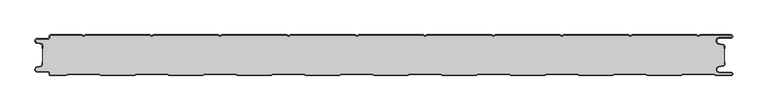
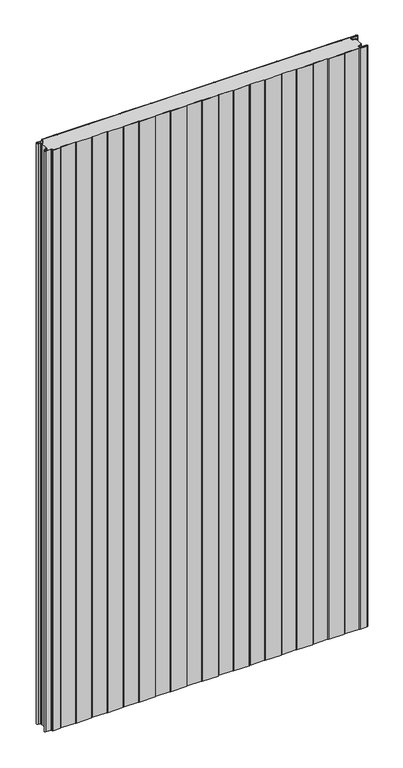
"""IFC4 building model written with IfcOpenShell, lengths in millimetres: plate geometry, PMH_Curtain-PaneL-Standard : ACH_PMH_Stone-wool-Panel_60M."""

from ifc_helpers import new_model, si_unit, point, frame_2d, origin, origin_with_axes, place, context, project, spatial, polyline, circle_curve, trimmed, segment, composite_curve, outline, extrude, source, transform, mapped, element, save


def plate_73a2f7ae(model_context):
    return source(origin(), model_context, "Body", "SweptSolid", [
        extrude(outline(composite_curve([segment(trimmed(circle_curve(frame_2d((-502.0, -15.878557)), 2.0), [point((-500.0, -15.878557))], [point((-501.5500978, -13.9298169))], True, "CARTESIAN"), True, "CONTINUOUS"), segment(polyline([(-501.5500978, -13.9298169), (-507.7098239, -12.507732)]), True, "CONTINUOUS"), segment(trimmed(circle_curve(frame_2d((-506.9, -9.0)), 3.6), [point((-507.7098239, -12.507732))], [point((-506.9, -5.4))], False, "CARTESIAN"), True, "CONTINUOUS"), segment(polyline([(-506.9, -5.4), (-491.4, -5.4)]), True, "CONTINUOUS"), segment(trimmed(circle_curve(frame_2d((-491.4, -3.4)), 2.0), [point((-491.4, -5.4))], [point((-489.4, -3.4))], True, "CARTESIAN"), True, "CONTINUOUS"), segment(polyline([(-489.4, -3.4), (-489.4, -2.0)]), True, "CONTINUOUS"), segment(trimmed(circle_curve(frame_2d((-487.4, -2.0)), 2.0), [point((-489.4, -2.0))], [point((-487.4, 0.0))], False, "CARTESIAN"), True, "CONTINUOUS"), segment(polyline([(-487.4, 0.0), (-442.0999995, 0.0), (-439.4, -1.5588455), (-436.7000005, 0.0), (-342.0999995, 0.0), (-339.4, -1.5588455), (-336.7000005, 0.0), (-242.0999995, 0.0), (-239.4, -1.5588455), (-236.7000005, 0.0), (-142.0999995, 0.0), (-139.4, -1.5588455), (-136.7000005, 0.0), (-42.0999995, 0.0), (-39.4, -1.5588455), (-36.7000005, 0.0), (57.9000005, 0.0), (60.6, -1.5588455), (63.2999995, 0.0), (157.9000005, 0.0), (160.6, -1.5588455), (163.2999995, 0.0), (257.9000005, 0.0), (260.6, -1.5588455), (263.2999995, 0.0), (357.9000005, 0.0), (360.6, -1.5588455), (363.2999995, 0.0), (457.9000005, 0.0), (460.6, -1.5588455), (463.2999995, 0.0), (508.1, 0.0)]), True, "CONTINUOUS"), segment(trimmed(circle_curve(frame_2d((508.1, -2.5)), 2.5), [point((508.1, 0.0))], [point((508.1, -5.0))], False, "CARTESIAN"), True, "CONTINUOUS"), segment(polyline([(508.1, -5.0), (491.1, -5.0)]), True, "CONTINUOUS"), segment(trimmed(circle_curve(frame_2d((491.1, -9.0)), 4.0), [point((491.1, -5.0))], [point((490.405407, -12.939231))], True, "CARTESIAN"), True, "CONTINUOUS"), segment(polyline([(490.405407, -12.939231), (496.8514855, -14.0758491)]), True, "CONTINUOUS"), segment(trimmed(circle_curve(frame_2d((496.4, -16.6363492)), 2.6), [point((496.8514855, -14.0758491))], [point((499.0, -16.6363492))], False, "CARTESIAN"), True, "CONTINUOUS"), segment(polyline([(499.0, -16.6363492), (499.0, -20.0), (498.2, -20.0), (498.2, -16.6363492)]), True, "CONTINUOUS"), segment(trimmed(circle_curve(frame_2d((496.4, -16.6363492)), 1.8), [point((498.2, -16.6363492))], [point((496.7125669, -14.8636953))], True, "CARTESIAN"), True, "CONTINUOUS"), segment(polyline([(496.7125669, -14.8636953), (490.2664884, -13.7270772)]), True, "CONTINUOUS"), segment(trimmed(circle_curve(frame_2d((491.1, -9.0)), 4.8), [point((490.2664884, -13.7270772))], [point((491.1, -4.2))], False, "CARTESIAN"), True, "CONTINUOUS"), segment(polyline([(491.1, -4.2), (508.1, -4.2)]), True, "CONTINUOUS"), segment(trimmed(circle_curve(frame_2d((508.1, -2.5)), 1.7), [point((508.1, -4.2))], [point((508.1, -0.8))], True, "CARTESIAN"), True, "CONTINUOUS"), segment(polyline([(508.1, -0.8), (463.5143588, -0.8), (460.6, -2.482606), (457.6856412, -0.8), (363.5143588, -0.8), (360.6, -2.482606), (357.6856412, -0.8), (263.5143588, -0.8), (260.6, -2.482606), (257.6856412, -0.8), (163.5143588, -0.8), (160.6, -2.482606), (157.6856412, -0.8), (63.5143588, -0.8), (60.6, -2.482606), (57.6856412, -0.8), (-36.4856412, -0.8), (-39.4, -2.482606), (-42.3143588, -0.8), (-136.4856412, -0.8), (-139.4, -2.482606), (-142.3143588, -0.8), (-236.4856412, -0.8), (-239.4, -2.482606), (-242.3143588, -0.8), (-336.4856412, -0.8), (-339.4, -2.482606), (-342.3143588, -0.8), (-436.4856412, -0.8), (-439.4, -2.482606), (-442.3143588, -0.8), (-487.4, -0.8)]), True, "CONTINUOUS"), segment(trimmed(circle_curve(frame_2d((-487.4, -2.0)), 1.2), [point((-487.4, -0.8))], [point((-488.6, -2.0))], True, "CARTESIAN"), True, "CONTINUOUS"), segment(polyline([(-488.6, -2.0), (-488.6, -3.4)]), True, "CONTINUOUS"), segment(trimmed(circle_curve(frame_2d((-491.4, -3.4)), 2.8), [point((-488.6, -3.4))], [point((-491.4, -6.2))], False, "CARTESIAN"), True, "CONTINUOUS"), segment(polyline([(-491.4, -6.2), (-506.9, -6.2)]), True, "CONTINUOUS"), segment(trimmed(circle_curve(frame_2d((-506.9, -9.0)), 2.8), [point((-506.9, -6.2))], [point((-507.529863, -11.7282362))], True, "CARTESIAN"), True, "CONTINUOUS"), segment(polyline([(-507.529863, -11.7282362), (-501.370137, -13.150321)]), True, "CONTINUOUS"), segment(trimmed(circle_curve(frame_2d((-502.0, -15.878557)), 2.8), [point((-501.370137, -13.150321))], [point((-499.2, -15.878557))], False, "CARTESIAN"), True, "CONTINUOUS"), segment(polyline([(-499.2, -15.878557), (-499.2, -20.0), (-500.0, -20.0), (-500.0, -15.878557)]), True, "CONTINUOUS")], self_intersect=False)), origin_with_axes(), (0.0, 0.0, 1.0), 1945.7507136),
        extrude(outline(composite_curve([segment(polyline([(-499.2, -44.121443), (-499.2, -15.8785573)]), True, "CONTINUOUS"), segment(trimmed(circle_curve(frame_2d((-502.0, -15.8785573)), 2.8), [point((-499.2, -15.8785573))], [point((-501.370137, -13.1503212))], True, "CARTESIAN"), True, "CONTINUOUS"), segment(polyline([(-501.370137, -13.1503212), (-507.5298631, -11.7282362)]), True, "CONTINUOUS"), segment(trimmed(circle_curve(frame_2d((-506.9, -9.0)), 2.8), [point((-507.5298631, -11.7282362))], [point((-506.9, -6.2))], False, "CARTESIAN"), True, "CONTINUOUS"), segment(polyline([(-506.9, -6.2), (-491.4000001, -6.2)]), True, "CONTINUOUS"), segment(trimmed(circle_curve(frame_2d((-491.4000001, -3.4)), 2.8), [point((-491.4000001, -6.2))], [point((-488.6000001, -3.4))], True, "CARTESIAN"), True, "CONTINUOUS"), segment(polyline([(-488.6000001, -3.4), (-488.6000001, -2.0)]), True, "CONTINUOUS"), segment(trimmed(circle_curve(frame_2d((-487.4000001, -2.0)), 1.2), [point((-488.6000001, -2.0))], [point((-487.4000001, -0.8))], False, "CARTESIAN"), True, "CONTINUOUS"), segment(polyline([(-487.4000001, -0.8), (-442.3143589, -0.8), (-439.4000001, -2.482606), (-436.4856412, -0.8), (-342.3143589, -0.8), (-339.4000001, -2.482606), (-336.4856412, -0.8), (-242.3143589, -0.8), (-239.4000001, -2.482606), (-236.4856412, -0.8), (-142.3143589, -0.8), (-139.4000001, -2.482606), (-136.4856412, -0.8), (-42.3143589, -0.8), (-39.4000001, -2.482606), (-36.4856412, -0.8), (57.6856411, -0.8), (60.5999999, -2.482606), (63.5143588, -0.8), (157.6856411, -0.8), (160.5999999, -2.482606), (163.5143588, -0.8), (257.6856411, -0.8), (260.5999999, -2.482606), (263.5143588, -0.8), (357.6856411, -0.8), (360.5999999, -2.482606), (363.5143588, -0.8), (457.6856411, -0.8), (460.5999999, -2.482606), (463.5143587, -0.8), (508.1, -0.8)]), True, "CONTINUOUS"), segment(trimmed(circle_curve(frame_2d((508.1, -2.5)), 1.7), [point((508.1, -0.8))], [point((508.1, -4.2))], False, "CARTESIAN"), True, "CONTINUOUS"), segment(polyline([(508.1, -4.2), (491.1, -4.2)]), True, "CONTINUOUS"), segment(trimmed(circle_curve(frame_2d((491.1, -9.0)), 4.8), [point((491.1, -4.2))], [point((490.2664883, -13.7270771))], True, "CARTESIAN"), True, "CONTINUOUS"), segment(polyline([(490.2664883, -13.7270771), (496.7125668, -14.8636953)]), True, "CONTINUOUS"), segment(trimmed(circle_curve(frame_2d((496.4, -16.6363492)), 1.8), [point((496.7125668, -14.8636953))], [point((498.2, -16.6363492))], False, "CARTESIAN"), True, "CONTINUOUS"), segment(polyline([(498.2, -16.6363492), (498.2, -43.363652)]), True, "CONTINUOUS"), segment(trimmed(circle_curve(frame_2d((496.4, -43.363652)), 1.8), [point((498.2, -43.363652))], [point((496.7125666, -45.1363059))], False, "CARTESIAN"), True, "CONTINUOUS"), segment(polyline([(496.7125666, -45.1363059), (490.266489, -46.272923)]), True, "CONTINUOUS"), segment(trimmed(circle_curve(frame_2d((491.1, -51.0000002)), 4.7999999), [point((490.266489, -46.272923))], [point((491.1, -55.8000001))], True, "CARTESIAN"), True, "CONTINUOUS"), segment(polyline([(491.1, -55.8000001), (508.1, -55.8000001)]), True, "CONTINUOUS"), segment(trimmed(circle_curve(frame_2d((508.1, -57.5)), 1.7), [point((508.1, -55.8000001))], [point((508.1, -59.2))], False, "CARTESIAN"), True, "CONTINUOUS"), segment(polyline([(508.1, -59.2), (485.8105122, -59.2), (483.2124346, -57.7), (437.9837184, -57.7), (435.3856408, -59.2), (385.8105122, -59.2), (383.2124346, -57.7), (337.9837184, -57.7), (335.3856408, -59.2), (285.8105122, -59.2), (283.2124346, -57.7), (237.9837184, -57.7), (235.3856408, -59.2), (185.8105122, -59.2), (183.2124346, -57.7), (137.9837184, -57.7), (135.3856408, -59.2), (85.8105122, -59.2), (83.2124346, -57.7), (37.9837184, -57.7), (35.3856408, -59.2), (-14.1894878, -59.2), (-16.7875654, -57.7), (-62.0162816, -57.7), (-64.6143592, -59.2), (-114.1894878, -59.2), (-116.7875654, -57.7), (-162.0162816, -57.7), (-164.6143592, -59.2), (-214.1894878, -59.2), (-216.7875654, -57.7), (-262.0162816, -57.7), (-264.6143592, -59.2), (-314.1894878, -59.2), (-316.7875654, -57.7), (-362.0162816, -57.7), (-364.6143592, -59.2), (-414.1894878, -59.2), (-416.7875654, -57.7), (-462.0162816, -57.7), (-464.6143592, -59.2), (-487.4, -59.2)]), True, "CONTINUOUS"), segment(trimmed(circle_curve(frame_2d((-487.4, -58.0)), 1.2), [point((-487.4, -59.2))], [point((-488.6, -58.0))], False, "CARTESIAN"), True, "CONTINUOUS"), segment(polyline([(-488.6, -58.0), (-488.6, -56.5999998)]), True, "CONTINUOUS"), segment(trimmed(circle_curve(frame_2d((-491.4, -56.5999998)), 2.8), [point((-488.6, -56.5999998))], [point((-491.4, -53.7999998))], True, "CARTESIAN"), True, "CONTINUOUS"), segment(polyline([(-491.4, -53.7999998), (-506.9, -53.7999998)]), True, "CONTINUOUS"), segment(trimmed(circle_curve(frame_2d((-506.9, -51.0)), 2.7999998), [point((-506.9, -53.7999998))], [point((-507.529863, -48.271764))], False, "CARTESIAN"), True, "CONTINUOUS"), segment(polyline([(-507.529863, -48.271764), (-501.370137, -46.8496792)]), True, "CONTINUOUS"), segment(trimmed(circle_curve(frame_2d((-502.0, -44.121443)), 2.8), [point((-501.370137, -46.8496792))], [point((-499.2, -44.121443))], True, "CARTESIAN"), True, "CONTINUOUS")], self_intersect=False)), origin_with_axes(), (0.0, 0.0, 1.0), 1945.7507136),
        extrude(outline(composite_curve([segment(trimmed(circle_curve(frame_2d((-487.4, -58.0)), 2.0), [point((-487.4, -60.0))], [point((-489.4, -58.0))], False, "CARTESIAN"), True, "CONTINUOUS"), segment(polyline([(-489.4, -58.0), (-489.4, -56.6)]), True, "CONTINUOUS"), segment(trimmed(circle_curve(frame_2d((-491.4, -56.6)), 2.0), [point((-489.4, -56.6))], [point((-491.4, -54.6))], True, "CARTESIAN"), True, "CONTINUOUS"), segment(polyline([(-491.4, -54.6), (-506.9, -54.6)]), True, "CONTINUOUS"), segment(trimmed(circle_curve(frame_2d((-506.9, -51.0)), 3.6), [point((-506.9, -54.6))], [point((-507.7098239, -47.4922678))], False, "CARTESIAN"), True, "CONTINUOUS"), segment(polyline([(-507.7098239, -47.4922678), (-501.5500979, -46.070183)]), True, "CONTINUOUS"), segment(trimmed(circle_curve(frame_2d((-502.0, -44.121443)), 2.0), [point((-501.5500979, -46.070183))], [point((-500.0, -44.121443))], True, "CARTESIAN"), True, "CONTINUOUS"), segment(polyline([(-500.0, -44.121443), (-500.0, -40.0), (-499.2, -40.0), (-499.2, -44.121443)]), True, "CONTINUOUS"), segment(trimmed(circle_curve(frame_2d((-502.0, -44.121443)), 2.8), [point((-499.2, -44.121443))], [point((-501.370137, -46.8496792))], False, "CARTESIAN"), True, "CONTINUOUS"), segment(polyline([(-501.370137, -46.8496792), (-507.529863, -48.271764)]), True, "CONTINUOUS"), segment(trimmed(circle_curve(frame_2d((-506.9, -51.0)), 2.8), [point((-507.529863, -48.271764))], [point((-506.9, -53.8))], True, "CARTESIAN"), True, "CONTINUOUS"), segment(polyline([(-506.9, -53.8), (-491.4, -53.8)]), True, "CONTINUOUS"), segment(trimmed(circle_curve(frame_2d((-491.4, -56.6)), 2.8), [point((-491.4, -53.8))], [point((-488.6, -56.6))], False, "CARTESIAN"), True, "CONTINUOUS"), segment(polyline([(-488.6, -56.6), (-488.6, -58.0)]), True, "CONTINUOUS"), segment(trimmed(circle_curve(frame_2d((-487.4, -58.0)), 1.2), [point((-488.6, -58.0))], [point((-487.4, -59.2))], True, "CARTESIAN"), True, "CONTINUOUS"), segment(polyline([(-487.4, -59.2), (-464.6143592, -59.2), (-462.0162816, -57.7), (-416.7875654, -57.7), (-414.1894878, -59.2), (-364.6143592, -59.2), (-362.0162816, -57.7), (-316.7875654, -57.7), (-314.1894878, -59.2), (-264.6143592, -59.2), (-262.0162816, -57.7), (-216.7875654, -57.7), (-214.1894878, -59.2), (-164.6143592, -59.2), (-162.0162816, -57.7), (-116.7875654, -57.7), (-114.1894878, -59.2), (-64.6143592, -59.2), (-62.0162816, -57.7), (-16.7875654, -57.7), (-14.1894878, -59.2), (35.3856408, -59.2), (37.9837184, -57.7), (83.2124346, -57.7), (85.8105122, -59.2), (135.3856408, -59.2), (137.9837184, -57.7), (183.2124346, -57.7), (185.8105122, -59.2), (235.3856408, -59.2), (237.9837184, -57.7), (283.2124346, -57.7), (285.8105122, -59.2), (335.3856408, -59.2), (337.9837184, -57.7), (383.2124346, -57.7), (385.8105122, -59.2), (435.3856408, -59.2), (437.9837184, -57.7), (483.2124346, -57.7), (485.8105122, -59.2), (508.1, -59.2)]), True, "CONTINUOUS"), segment(trimmed(circle_curve(frame_2d((508.1, -57.5)), 1.7), [point((508.1, -59.2))], [point((508.1, -55.8))], True, "CARTESIAN"), True, "CONTINUOUS"), segment(polyline([(508.1, -55.8), (491.1, -55.8)]), True, "CONTINUOUS"), segment(trimmed(circle_curve(frame_2d((491.1, -51.0)), 4.8), [point((491.1, -55.8))], [point((490.266489, -46.2729227))], False, "CARTESIAN"), True, "CONTINUOUS"), segment(polyline([(490.266489, -46.2729227), (496.7125666, -45.1363058)]), True, "CONTINUOUS"), segment(trimmed(circle_curve(frame_2d((496.4, -43.363652)), 1.8), [point((496.7125666, -45.1363058))], [point((498.2, -43.363652))], True, "CARTESIAN"), True, "CONTINUOUS"), segment(polyline([(498.2, -43.363652), (498.2, -40.0), (499.0, -40.0), (499.0, -43.363652)]), True, "CONTINUOUS"), segment(trimmed(circle_curve(frame_2d((496.4, -43.363652)), 2.6), [point((499.0, -43.363652))], [point((496.8514851, -45.9241522))], False, "CARTESIAN"), True, "CONTINUOUS"), segment(polyline([(496.8514851, -45.9241522), (490.4054075, -47.0607691)]), True, "CONTINUOUS"), segment(trimmed(circle_curve(frame_2d((491.1, -51.0)), 4.0), [point((490.4054075, -47.0607691))], [point((491.1, -55.0))], True, "CARTESIAN"), True, "CONTINUOUS"), segment(polyline([(491.1, -55.0), (508.1, -55.0)]), True, "CONTINUOUS"), segment(trimmed(circle_curve(frame_2d((508.1, -57.5)), 2.5), [point((508.1, -55.0))], [point((508.1, -60.0))], False, "CARTESIAN"), True, "CONTINUOUS"), segment(polyline([(508.1, -60.0), (485.5961529, -60.0), (482.9980753, -58.5), (438.1980777, -58.5), (435.6000001, -60.0), (385.5961529, -60.0), (382.9980753, -58.5), (338.1980777, -58.5), (335.6000001, -60.0), (285.5961529, -60.0), (282.9980753, -58.5), (238.1980777, -58.5), (235.6000001, -60.0), (185.5961529, -60.0), (182.9980753, -58.5), (138.1980777, -58.5), (135.6000001, -60.0), (85.5961529, -60.0), (82.9980753, -58.5), (38.1980777, -58.5), (35.6000001, -60.0), (-14.4038471, -60.0), (-17.0019247, -58.5), (-61.8019223, -58.5), (-64.3999999, -60.0), (-114.4038471, -60.0), (-117.0019247, -58.5), (-161.8019223, -58.5), (-164.3999999, -60.0), (-214.4038471, -60.0), (-217.0019247, -58.5), (-261.8019223, -58.5), (-264.3999999, -60.0), (-314.4038471, -60.0), (-317.0019247, -58.5), (-361.8019223, -58.5), (-364.3999999, -60.0), (-414.4038471, -60.0), (-417.0019247, -58.5), (-461.8019223, -58.5), (-464.3999999, -60.0), (-487.4, -60.0)]), True, "CONTINUOUS")], self_intersect=False)), origin_with_axes(), (0.0, 0.0, 1.0), 1945.7507136),
    ])


if __name__ == "__main__":
    model = new_model("IFC4")
    model_context = context("Model", 3, world=origin())
    ifc_project = project(units=[si_unit("LENGTHUNIT", "METRE", prefix="MILLI")], contexts=[model_context])
    site = spatial("IfcSite", under=ifc_project)
    building = spatial("IfcBuilding", under=site)
    placement = place(None, origin())
    plate_shape = plate_73a2f7ae(model_context)
    element("IfcPlate", 1, ObjectType="PMH_Curtain-PaneL-Standard : ACH_PMH_Stone-wool-Panel_60M", at=placement, inside=building, context=model_context, shape_type="MappedRepresentation", body=[
        mapped(plate_shape, transform((0.0, 0.0, 0.0), x_axis=(1.0, 0.0, 0.0), y_axis=(0.0, 1.0, 0.0), z_axis=(0.0, 0.0, 1.0))),
    ])
    save(model, "model.ifc")
